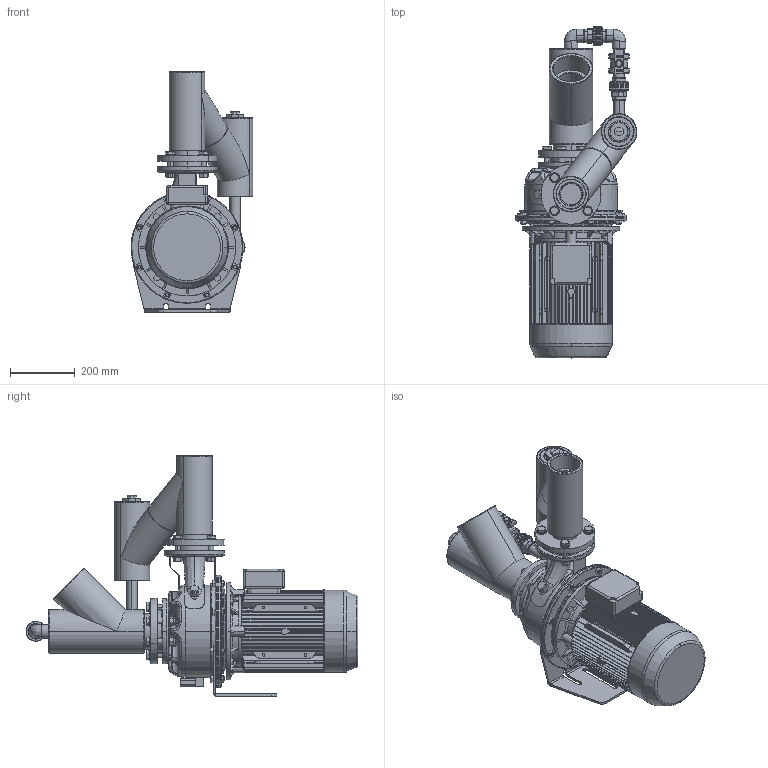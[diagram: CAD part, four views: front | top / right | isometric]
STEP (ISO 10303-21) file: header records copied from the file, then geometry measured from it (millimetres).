
FILE_DESCRIPTION (( 'STEP AP203' ), '1' );
FILE_NAME ('Lowara SHE 65-250 z.a.z handbed. by-pass.STEP', '2011-04-08T06:30:06', ( '' ), ( '' ), 'SwSTEP 2.0', 'SolidWorks 2010', '' );
FILE_SCHEMA (( 'CONFIG_CONTROL_DESIGN' ));
Products named in the file (1): Lowara SHE 65-250 z.a.z handbed. by-pass
Bounding box: 375.45 x 1023.95 x 741.24 mm (x, y, z)
Volume: 38010693 mm3; surface area: 3493090.3 mm2
Topology: 78 solids, 80 shells, 3256 faces, 8245 edges, 5141 vertices
Faces by surface type: plane 1234, cylinder 954, cone 597, bspline 451, torus 20
Entity records: 147195 total; most frequent: CARTESIAN_POINT 74067, ORIENTED_EDGE 16294, DIRECTION 13858, EDGE_CURVE 8147, AXIS2_PLACEMENT_3D 5453, VERTEX_POINT 5145, EDGE_LOOP 3588, ADVANCED_FACE 3256
